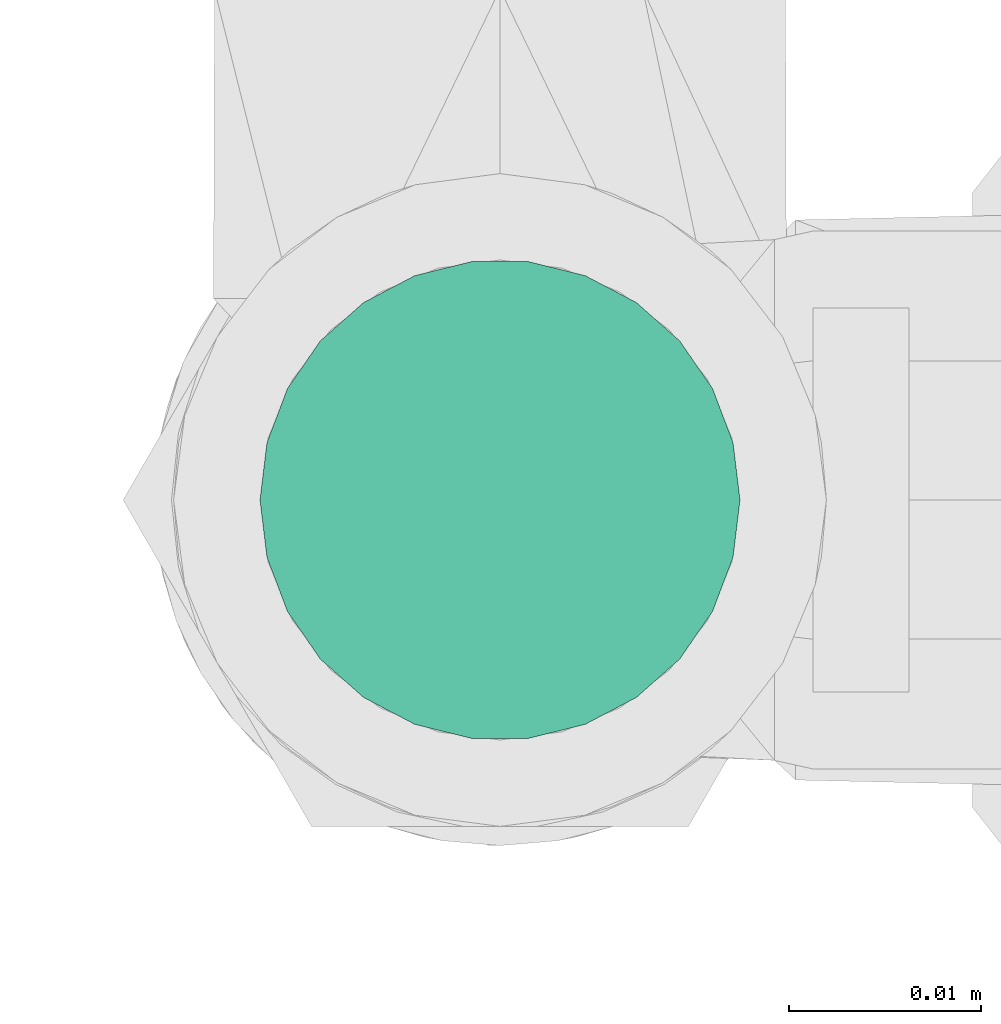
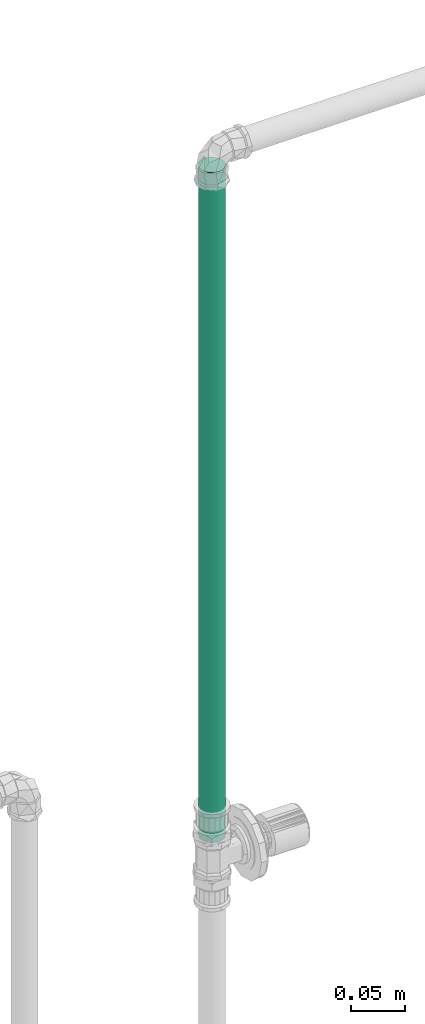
# One storey, part 273 of 589: 1 flow segment.
"""IFC2X3 building model written with IfcOpenShell, lengths in millimetres."""

from ifc_helpers import new_model, entity, si_unit, converted_unit, derived_unit, direction, frame, frame_2d, origin, place, context, subcontext, project, spatial, circle, extrude, type_object, element, save


model = new_model("IFC2X3")

# Units and contexts
model_context = context("Model", 3, precision=0.01, world=origin(), true_north=direction((6.123031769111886e-17, 1.0)))
body_context = subcontext(model_context, "Body", "Model", "MODEL_VIEW")
ifc_project = project(units=[si_unit("LENGTHUNIT", "METRE", prefix="MILLI"), si_unit("AREAUNIT", "SQUARE_METRE"), si_unit("VOLUMEUNIT", "CUBIC_METRE"), converted_unit("PLANEANGLEUNIT", "DEGREE", entity("IfcRatioMeasure", 0.017453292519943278), si_unit("PLANEANGLEUNIT", "RADIAN"), dimensions=[0, 0, 0, 0, 0, 0, 0]), si_unit("MASSUNIT", "GRAM", prefix="KILO"), derived_unit("MASSDENSITYUNIT", [(si_unit("MASSUNIT", "GRAM", prefix="KILO"), 1), (si_unit("LENGTHUNIT", "METRE"), -3)]), derived_unit("IONCONCENTRATIONUNIT", [(si_unit("MASSUNIT", "GRAM", prefix="KILO"), 1), (si_unit("LENGTHUNIT", "METRE"), -3)]), derived_unit("MOMENTOFINERTIAUNIT", [(si_unit("LENGTHUNIT", "METRE"), 4)]), si_unit("TIMEUNIT", "SECOND"), si_unit("FREQUENCYUNIT", "HERTZ"), si_unit("THERMODYNAMICTEMPERATUREUNIT", "DEGREE_CELSIUS"), derived_unit("THERMALTRANSMITTANCEUNIT", [(si_unit("MASSUNIT", "GRAM", prefix="KILO"), 1), (si_unit("THERMODYNAMICTEMPERATUREUNIT", "KELVIN"), -1), (si_unit("TIMEUNIT", "SECOND"), -3)]), derived_unit("THERMALCONDUCTANCEUNIT", [(si_unit("MASSUNIT", "GRAM", prefix="KILO"), 1), (si_unit("THERMODYNAMICTEMPERATUREUNIT", "KELVIN"), -1), (si_unit("TIMEUNIT", "SECOND"), -3), (si_unit("LENGTHUNIT", "METRE"), 1)]), derived_unit("VOLUMETRICFLOWRATEUNIT", [(si_unit("LENGTHUNIT", "METRE"), 3), (si_unit("TIMEUNIT", "SECOND"), -1)]), derived_unit("MASSFLOWRATEUNIT", [(si_unit("MASSUNIT", "GRAM", prefix="KILO"), 1), (si_unit("TIMEUNIT", "SECOND"), -1)]), derived_unit("ROTATIONALFREQUENCYUNIT", [(si_unit("TIMEUNIT", "SECOND"), -1)]), si_unit("ELECTRICCURRENTUNIT", "AMPERE"), si_unit("ELECTRICVOLTAGEUNIT", "VOLT"), si_unit("POWERUNIT", "WATT"), si_unit("FORCEUNIT", "NEWTON", prefix="KILO"), si_unit("ILLUMINANCEUNIT", "LUX"), si_unit("LUMINOUSFLUXUNIT", "LUMEN"), si_unit("LUMINOUSINTENSITYUNIT", "CANDELA"), derived_unit("USERDEFINED", [(si_unit("MASSUNIT", "GRAM", prefix="KILO"), -1), (si_unit("LENGTHUNIT", "METRE"), -2), (si_unit("TIMEUNIT", "SECOND"), 3), (si_unit("LUMINOUSFLUXUNIT", "LUMEN"), 1)]), derived_unit("USERDEFINED", [(si_unit("MASSUNIT", "GRAM", prefix="KILO"), 1), (si_unit("TIMEUNIT", "SECOND"), -3), (si_unit("LENGTHUNIT", "METRE"), 3), (si_unit("ELECTRICCURRENTUNIT", "AMPERE"), -2)]), derived_unit("SOUNDPOWERUNIT", [(si_unit("MASSUNIT", "GRAM", prefix="KILO"), 1), (si_unit("TIMEUNIT", "SECOND"), -3), (si_unit("LENGTHUNIT", "METRE"), 2)]), derived_unit("SOUNDPRESSUREUNIT", [(si_unit("MASSUNIT", "GRAM", prefix="KILO"), 1), (si_unit("LENGTHUNIT", "METRE"), -1), (si_unit("TIMEUNIT", "SECOND"), -2)]), derived_unit("LINEARVELOCITYUNIT", [(si_unit("LENGTHUNIT", "METRE"), 1), (si_unit("TIMEUNIT", "SECOND"), -1)]), si_unit("PRESSUREUNIT", "PASCAL"), derived_unit("USERDEFINED", [(si_unit("MASSUNIT", "GRAM", prefix="KILO"), 1), (si_unit("LENGTHUNIT", "METRE"), -2), (si_unit("TIMEUNIT", "SECOND"), -2)]), derived_unit("LINEARFORCEUNIT", [(si_unit("MASSUNIT", "GRAM", prefix="KILO"), 1), (si_unit("TIMEUNIT", "SECOND"), -2)]), derived_unit("PLANARFORCEUNIT", [(si_unit("MASSUNIT", "GRAM", prefix="KILO"), 1), (si_unit("LENGTHUNIT", "METRE"), -1), (si_unit("TIMEUNIT", "SECOND"), -2)]), derived_unit("SPECIFICHEATCAPACITYUNIT", [(si_unit("THERMODYNAMICTEMPERATUREUNIT", "KELVIN"), -1), (si_unit("LENGTHUNIT", "METRE"), 2), (si_unit("TIMEUNIT", "SECOND"), -2)]), derived_unit("HEATINGVALUEUNIT", [(si_unit("LENGTHUNIT", "METRE"), 2), (si_unit("TIMEUNIT", "SECOND"), -2)]), derived_unit("VAPORPERMEABILITYUNIT", [(si_unit("LENGTHUNIT", "METRE"), -1), (si_unit("TIMEUNIT", "SECOND"), 1)]), derived_unit("DYNAMICVISCOSITYUNIT", [(si_unit("MASSUNIT", "GRAM", prefix="KILO"), 1), (si_unit("TIMEUNIT", "SECOND"), -1), (si_unit("LENGTHUNIT", "METRE"), -1)]), derived_unit("THERMALEXPANSIONCOEFFICIENTUNIT", [(si_unit("THERMODYNAMICTEMPERATUREUNIT", "KELVIN"), -1)]), derived_unit("MODULUSOFELASTICITYUNIT", [(si_unit("MASSUNIT", "GRAM", prefix="KILO"), 1), (si_unit("LENGTHUNIT", "METRE"), -1), (si_unit("TIMEUNIT", "SECOND"), -2)]), derived_unit("ISOTHERMALMOISTURECAPACITYUNIT", [(si_unit("LENGTHUNIT", "METRE"), 3), (si_unit("MASSUNIT", "GRAM", prefix="KILO"), -1)]), derived_unit("MOISTUREDIFFUSIVITYUNIT", [(si_unit("TIMEUNIT", "SECOND"), -1), (si_unit("LENGTHUNIT", "METRE"), 2)])], contexts=[model_context])

# Site, building, storey
site_placement = place(None, origin())
site = spatial("IfcSite", under=ifc_project, at=site_placement, Name="Default", CompositionType="ELEMENT")
building_placement = place(site_placement, origin())
building = spatial("IfcBuilding", under=site, at=building_placement, CompositionType="ELEMENT")
storey_placement = place(building_placement, frame((0.0, 0.0, 100.0)))
storey = spatial("IfcBuildingStorey", under=building, at=storey_placement, Name="TÉRREO", CompositionType="ELEMENT", Elevation=100.0)

# Flow segment
pipe_segment_type = type_object("IfcPipeSegmentType", Name="Tipos de tubos:PVC Marrom Soldável", PredefinedType="NOTDEFINED")
flow_segment_placement = place(storey_placement, origin())
element("IfcFlowSegment", 1, at=flow_segment_placement, inside=storey, type_object=pipe_segment_type, Name="Tipos de tubos:PVC Marrom Soldável", ObjectType="Tipos de tubos:PVC Marrom Soldável", context=body_context, shape_type="SweptSolid", body=[
    extrude(circle(Radius=12.5, at=frame_2d((6.767919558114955e-14, 0.0), x_axis=(1.0, 0.0))), frame((-467.5853536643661, 6184.222132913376, 2200.0), z_axis=(0.0, 0.0, 1.0), x_axis=(-1.0, 0.0, 0.0)), (0.0, 0.0, 1.0), 754.6000000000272),
])

save(model, "model.ifc")
